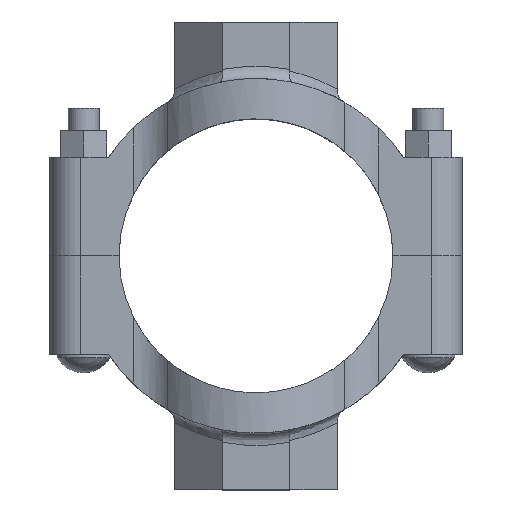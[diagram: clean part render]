
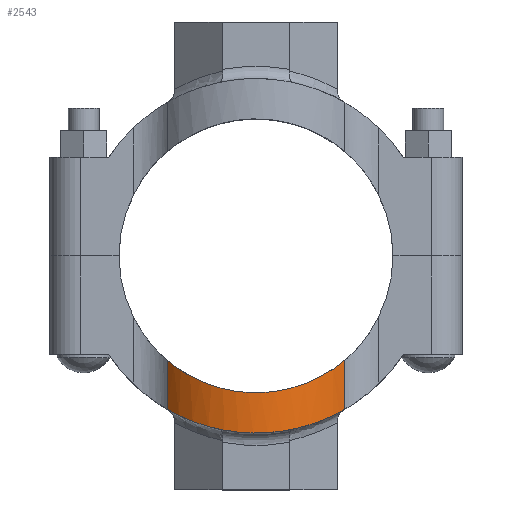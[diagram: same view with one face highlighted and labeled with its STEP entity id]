
A CAD part, top view. The second image highlights one B-rep face of the part: STEP entity #2543.
In plain terms, the highlighted cylindrical face has radius 58.801 mm (diameter 117.602 mm), a partial arc.
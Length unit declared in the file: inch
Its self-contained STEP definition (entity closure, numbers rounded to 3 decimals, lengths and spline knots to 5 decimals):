
#98=B_SPLINE_CURVE_WITH_KNOTS('',3,(#4826,#4827,#4828,#4829,#4830,#4831,
#4832,#4833,#4834,#4835,#4836,#4837,#4838,#4839,#4840,#4841,#4842,#4843,
#4844,#4845,#4846,#4847),.UNSPECIFIED.,.F.,.F.,(4,2,2,2,2,2,2,2,2,2,4),
(22.35035,23.00779,24.15185,25.29592,26.43998,
27.58405,28.72811,29.87217,31.01624,32.1603,
32.81774),.UNSPECIFIED.);
#109=B_SPLINE_CURVE_WITH_KNOTS('',3,(#5159,#5160,#5161,#5162,#5163,#5164,
#5165,#5166,#5167,#5168,#5169,#5170,#5171,#5172,#5173,#5174,#5175,#5176,
#5177,#5178,#5179,#5180),.UNSPECIFIED.,.F.,.F.,(4,2,2,2,2,2,2,2,2,2,4),
(4.19691,4.89556,6.07013,7.24471,8.41929,
9.59386,10.76844,11.94301,13.11759,14.29216,
14.99081),.UNSPECIFIED.);
#161=CYLINDRICAL_SURFACE('',#2833,2.315);
#311=FACE_OUTER_BOUND('',#465,.T.);
#465=EDGE_LOOP('',(#2175,#2176,#2177,#2178));
#652=LINE('',#5245,#838);
#653=LINE('',#5247,#839);
#838=VECTOR('',#3460,0.3937);
#839=VECTOR('',#3463,0.3937);
#1106=VERTEX_POINT('',#4812);
#1107=VERTEX_POINT('',#4825);
#1154=VERTEX_POINT('',#5145);
#1155=VERTEX_POINT('',#5158);
#1420=EDGE_CURVE('',#1107,#1106,#98,.T.);
#1482=EDGE_CURVE('',#1155,#1154,#109,.T.);
#1510=EDGE_CURVE('',#1154,#1107,#652,.T.);
#1511=EDGE_CURVE('',#1155,#1106,#653,.T.);
#2175=ORIENTED_EDGE('',*,*,#1482,.T.);
#2176=ORIENTED_EDGE('',*,*,#1510,.T.);
#2177=ORIENTED_EDGE('',*,*,#1420,.T.);
#2178=ORIENTED_EDGE('',*,*,#1511,.F.);
#2543=ADVANCED_FACE('',(#311),#161,.T.);
#2833=AXIS2_PLACEMENT_3D('',#5246,#3461,#3462);
#3460=DIRECTION('',(0.,1.,0.));
#3461=DIRECTION('center_axis',(0.,1.,0.));
#3462=DIRECTION('ref_axis',(-0.779,0.,0.628));
#3463=DIRECTION('',(0.,1.,0.));
#4812=CARTESIAN_POINT('',(-1.80242,3.11629,1.45276));
#4825=CARTESIAN_POINT('',(1.80242,3.11629,1.45276));
#4826=CARTESIAN_POINT('Ctrl Pts',(1.80242,3.11629,1.45276));
#4827=CARTESIAN_POINT('Ctrl Pts',(1.74981,3.14672,1.51803));
#4828=CARTESIAN_POINT('Ctrl Pts',(1.69434,3.17701,1.57957));
#4829=CARTESIAN_POINT('Ctrl Pts',(1.5371,3.25729,1.73681));
#4830=CARTESIAN_POINT('Ctrl Pts',(1.42394,3.30909,1.83142));
#4831=CARTESIAN_POINT('Ctrl Pts',(1.1758,3.40517,1.9998));
#4832=CARTESIAN_POINT('Ctrl Pts',(1.04081,3.44938,2.07357));
#4833=CARTESIAN_POINT('Ctrl Pts',(0.7567,3.52263,2.19326));
#4834=CARTESIAN_POINT('Ctrl Pts',(0.60728,3.5517,2.23928));
#4835=CARTESIAN_POINT('Ctrl Pts',(0.304,3.5904,2.30016));
#4836=CARTESIAN_POINT('Ctrl Pts',(0.15014,3.6,2.315));
#4837=CARTESIAN_POINT('Ctrl Pts',(-0.15014,3.6,2.315));
#4838=CARTESIAN_POINT('Ctrl Pts',(-0.304,3.5904,2.30016));
#4839=CARTESIAN_POINT('Ctrl Pts',(-0.60728,3.5517,2.23928));
#4840=CARTESIAN_POINT('Ctrl Pts',(-0.7567,3.52263,2.19326));
#4841=CARTESIAN_POINT('Ctrl Pts',(-1.04081,3.44938,2.07357));
#4842=CARTESIAN_POINT('Ctrl Pts',(-1.1758,3.40517,1.9998));
#4843=CARTESIAN_POINT('Ctrl Pts',(-1.42394,3.30909,1.83142));
#4844=CARTESIAN_POINT('Ctrl Pts',(-1.5371,3.25729,1.73681));
#4845=CARTESIAN_POINT('Ctrl Pts',(-1.69434,3.17701,1.57957));
#4846=CARTESIAN_POINT('Ctrl Pts',(-1.74981,3.14672,1.51803));
#4847=CARTESIAN_POINT('Ctrl Pts',(-1.80242,3.11629,1.45276));
#5145=CARTESIAN_POINT('',(1.80242,2.1185,1.45276));
#5158=CARTESIAN_POINT('',(-1.80242,2.1185,1.45276));
#5159=CARTESIAN_POINT('Ctrl Pts',(-1.80242,2.1185,1.45276));
#5160=CARTESIAN_POINT('Ctrl Pts',(-1.75003,2.16307,1.51776));
#5161=CARTESIAN_POINT('Ctrl Pts',(-1.6946,2.20685,1.57931));
#5162=CARTESIAN_POINT('Ctrl Pts',(-1.54004,2.31935,1.73386));
#5163=CARTESIAN_POINT('Ctrl Pts',(-1.4296,2.39001,1.82684));
#5164=CARTESIAN_POINT('Ctrl Pts',(-1.18548,2.52002,1.99393));
#5165=CARTESIAN_POINT('Ctrl Pts',(-1.05178,2.57934,2.06803));
#5166=CARTESIAN_POINT('Ctrl Pts',(-0.76823,2.67751,2.18925));
#5167=CARTESIAN_POINT('Ctrl Pts',(-0.61804,2.71643,2.23647));
#5168=CARTESIAN_POINT('Ctrl Pts',(-0.311,2.76844,2.29936));
#5169=CARTESIAN_POINT('Ctrl Pts',(-0.15414,2.7815,2.315));
#5170=CARTESIAN_POINT('Ctrl Pts',(0.15414,2.7815,2.315));
#5171=CARTESIAN_POINT('Ctrl Pts',(0.311,2.76844,2.29936));
#5172=CARTESIAN_POINT('Ctrl Pts',(0.61804,2.71643,2.23647));
#5173=CARTESIAN_POINT('Ctrl Pts',(0.76823,2.67751,2.18925));
#5174=CARTESIAN_POINT('Ctrl Pts',(1.05178,2.57934,2.06803));
#5175=CARTESIAN_POINT('Ctrl Pts',(1.18548,2.52002,1.99393));
#5176=CARTESIAN_POINT('Ctrl Pts',(1.4296,2.39001,1.82684));
#5177=CARTESIAN_POINT('Ctrl Pts',(1.54004,2.31935,1.73386));
#5178=CARTESIAN_POINT('Ctrl Pts',(1.6946,2.20685,1.57931));
#5179=CARTESIAN_POINT('Ctrl Pts',(1.75003,2.16307,1.51776));
#5180=CARTESIAN_POINT('Ctrl Pts',(1.80242,2.1185,1.45276));
#5245=CARTESIAN_POINT('',(1.80242,0.,1.45276));
#5246=CARTESIAN_POINT('Origin',(0.,0.,0.));
#5247=CARTESIAN_POINT('',(-1.80242,0.,1.45276));
